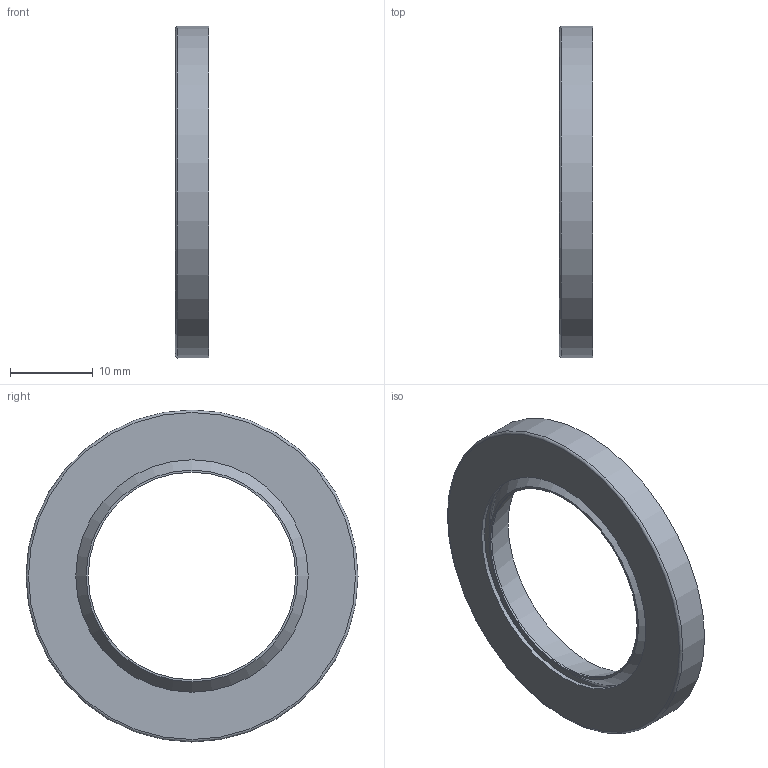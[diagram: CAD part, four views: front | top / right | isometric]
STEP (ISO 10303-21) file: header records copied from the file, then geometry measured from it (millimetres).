
FILE_DESCRIPTION(('STEP AP203'),'1');
FILE_NAME('//192.168.1.1/share/s-4 技術開発/s-4-4_CAD/s-4-4-3_見直し済み/007 修正済み/シール/SBX-25.step','2022-02-16T05:41:30',(' '),(' '),'Spatial InterOp 3D',' ',' ');
FILE_SCHEMA(('CONFIG_CONTROL_DESIGN'));
Length unit declared in the file: millimetre
Products named in the file (1): 1
Bounding box: 4 x 40 x 40 mm (x, y, z)
Volume: 2353.9 mm3; surface area: 3139.5 mm2
Topology: 1 solids, 1 shells, 14 faces, 23 edges, 14 vertices
Faces by surface type: plane 5, cylinder 4, torus 3, cone 2
Full cylindrical faces by diameter (mm): 25 x1, 28 x1, 34 x1, 40 x1
Entity records: 332 total; most frequent: DIRECTION 58, CARTESIAN_POINT 43, AXIS2_PLACEMENT_3D 29, EDGE_LOOP 28, ORIENTED_EDGE 28, FACE_OUTER_BOUND 21, ADVANCED_FACE 14, EDGE_CURVE 14
